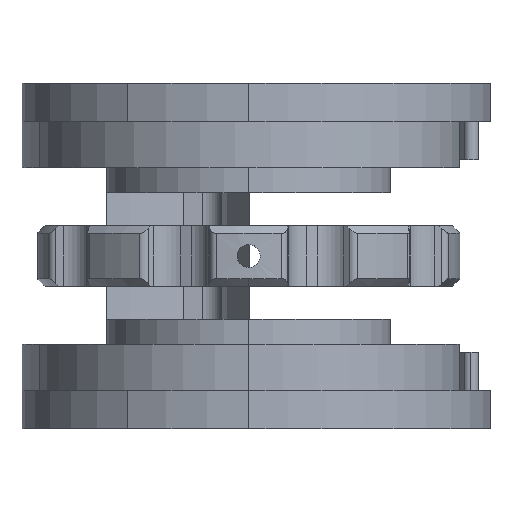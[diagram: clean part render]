
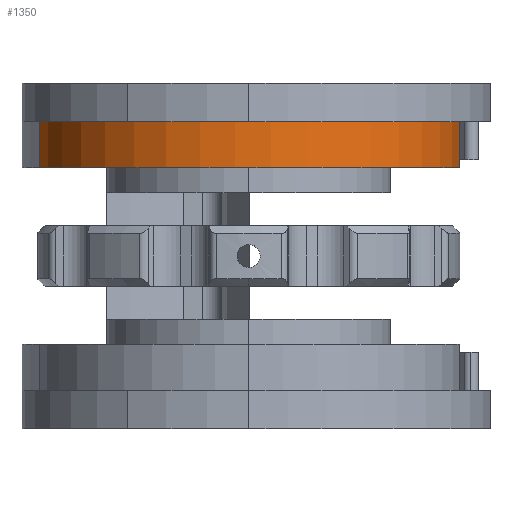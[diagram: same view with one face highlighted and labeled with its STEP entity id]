
A CAD part, left-side view. The second image highlights one B-rep face of the part: STEP entity #1350.
In plain terms, the highlighted cylindrical face has radius 55 mm (diameter 110 mm), a partial arc.
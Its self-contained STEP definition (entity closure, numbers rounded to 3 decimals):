
#179 = VERTEX_POINT ( 'NONE', #504 ) ;
#203 = VERTEX_POINT ( 'NONE', #7340 ) ;
#504 = CARTESIAN_POINT ( 'NONE',  ( -81.687, 81.144, 22.001 ) ) ;
#702 = EDGE_CURVE ( 'NONE', #179, #1180, #3091, .T. ) ;
#703 = EDGE_CURVE ( 'NONE', #179, #203, #3082, .T. ) ;
#704 = EDGE_CURVE ( 'NONE', #1188, #203, #3084, .T. ) ;
#731 = EDGE_CURVE ( 'NONE', #1188, #1180, #2985, .T. ) ;
#877 = AXIS2_PLACEMENT_3D ( 'NONE', #6921, #6920, #6919 ) ;
#883 = AXIS2_PLACEMENT_3D ( 'NONE', #6859, #6858, #6857 ) ;
#1180 = VERTEX_POINT ( 'NONE', #6660 ) ;
#1188 = VERTEX_POINT ( 'NONE', #6652 ) ;
#1350 = ADVANCED_FACE ( 'NONE', ( #7748 ), #7747, .T. ) ;
#2985 = CIRCLE ( 'NONE', #883, 55. ) ;
#3080 = VECTOR ( 'NONE', #6917, 1000. ) ;
#3082 = CIRCLE ( 'NONE', #877, 55. ) ;
#3084 = LINE ( 'NONE', #6918, #3080 ) ;
#3087 = VECTOR ( 'NONE', #6922, 1000. ) ;
#3091 = LINE ( 'NONE', #6923, #3087 ) ;
#3873 = EDGE_LOOP ( 'NONE', ( #6077, #6078, #6079, #6080 ) ) ;
#4861 = DIRECTION ( 'NONE',  ( 1., 0., 0. ) ) ;
#4864 = DIRECTION ( 'NONE',  ( 0., 0., 1. ) ) ;
#4868 = CARTESIAN_POINT ( 'NONE',  ( -73.78, 26.716, 22.001 ) ) ;
#6077 = ORIENTED_EDGE ( 'NONE', *, *, #703, .T. ) ;
#6078 = ORIENTED_EDGE ( 'NONE', *, *, #704, .F. ) ;
#6079 = ORIENTED_EDGE ( 'NONE', *, *, #731, .T. ) ;
#6080 = ORIENTED_EDGE ( 'NONE', *, *, #702, .F. ) ;
#6652 = CARTESIAN_POINT ( 'NONE',  ( -60.624, -26.688, 34.001 ) ) ;
#6660 = CARTESIAN_POINT ( 'NONE',  ( -81.687, 81.144, 34.001 ) ) ;
#6857 = DIRECTION ( 'NONE',  ( 1., 0., 0. ) ) ;
#6858 = DIRECTION ( 'NONE',  ( 0., 0., -1. ) ) ;
#6859 = CARTESIAN_POINT ( 'NONE',  ( -73.78, 26.716, 34.001 ) ) ;
#6917 = DIRECTION ( 'NONE',  ( 0., 0., -1. ) ) ;
#6918 = CARTESIAN_POINT ( 'NONE',  ( -60.624, -26.688, 22.001 ) ) ;
#6919 = DIRECTION ( 'NONE',  ( 1., 0., 0. ) ) ;
#6920 = DIRECTION ( 'NONE',  ( 0., 0., 1. ) ) ;
#6921 = CARTESIAN_POINT ( 'NONE',  ( -73.78, 26.716, 22.001 ) ) ;
#6922 = DIRECTION ( 'NONE',  ( 0., 0., 1. ) ) ;
#6923 = CARTESIAN_POINT ( 'NONE',  ( -81.687, 81.144, 22.001 ) ) ;
#7340 = CARTESIAN_POINT ( 'NONE',  ( -60.624, -26.688, 22.001 ) ) ;
#7500 = AXIS2_PLACEMENT_3D ( 'NONE', #4868, #4864, #4861 ) ;
#7747 = CYLINDRICAL_SURFACE ( 'NONE', #7500, 55. ) ;
#7748 = FACE_OUTER_BOUND ( 'NONE', #3873, .T. ) ;
